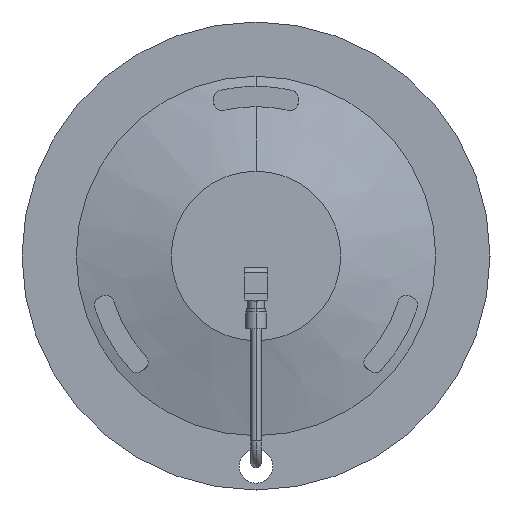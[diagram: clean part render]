
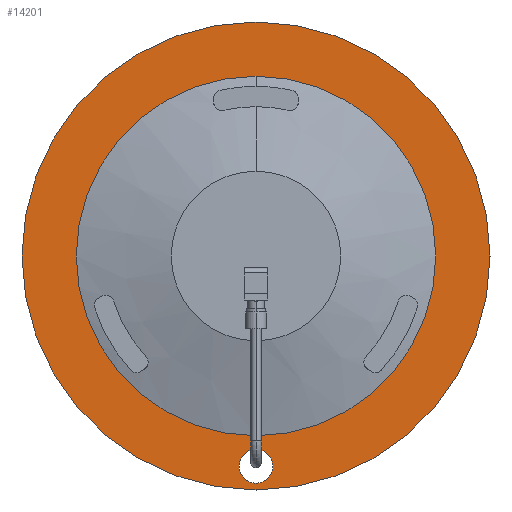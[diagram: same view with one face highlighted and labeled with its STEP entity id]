
A CAD part, front view. The second image highlights one B-rep face of the part: STEP entity #14201.
In plain terms, the highlighted planar face has unit normal (0, -1, 0).
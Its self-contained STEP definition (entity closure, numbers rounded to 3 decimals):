
#184 = CARTESIAN_POINT ( 'NONE',  ( 0., -172.8, 0. ) ) ;
#335 = ORIENTED_EDGE ( 'NONE', *, *, #9932, .F. ) ;
#340 = EDGE_CURVE ( 'NONE', #13466, #1689, #13415, .T. ) ;
#426 = ORIENTED_EDGE ( 'NONE', *, *, #4478, .F. ) ;
#559 = FACE_BOUND ( 'NONE', #10485, .T. ) ;
#699 = DIRECTION ( 'NONE',  ( 0., 0., -1. ) ) ;
#1544 = CIRCLE ( 'NONE', #6304, 138. ) ;
#1689 = VERTEX_POINT ( 'NONE', #12234 ) ;
#1805 = PLANE ( 'NONE',  #10524 ) ;
#1960 = FACE_BOUND ( 'NONE', #5738, .T. ) ;
#2301 = EDGE_CURVE ( 'NONE', #13664, #14621, #5824, .T. ) ;
#2599 = AXIS2_PLACEMENT_3D ( 'NONE', #13309, #5983, #10740 ) ;
#2846 = ORIENTED_EDGE ( 'NONE', *, *, #3998, .F. ) ;
#2874 = DIRECTION ( 'NONE',  ( 0., 1., 0. ) ) ;
#3247 = CIRCLE ( 'NONE', #4742, 10. ) ;
#3443 = CARTESIAN_POINT ( 'NONE',  ( 0., -172.8, -138. ) ) ;
#3896 = CIRCLE ( 'NONE', #11379, 105.981 ) ;
#3998 = EDGE_CURVE ( 'NONE', #1689, #13466, #3247, .T. ) ;
#4121 = CARTESIAN_POINT ( 'NONE',  ( 0., -172.8, -124. ) ) ;
#4478 = EDGE_CURVE ( 'NONE', #14621, #13664, #3896, .T. ) ;
#4742 = AXIS2_PLACEMENT_3D ( 'NONE', #4121, #5147, #8804 ) ;
#5147 = DIRECTION ( 'NONE',  ( 0., -1., 0. ) ) ;
#5252 = CARTESIAN_POINT ( 'NONE',  ( 0., -172.8, 105.981 ) ) ;
#5343 = CARTESIAN_POINT ( 'NONE',  ( -138., -172.8, 0. ) ) ;
#5738 = EDGE_LOOP ( 'NONE', ( #426, #13101 ) ) ;
#5824 = CIRCLE ( 'NONE', #10310, 105.981 ) ;
#5983 = DIRECTION ( 'NONE',  ( 0., 1., 0. ) ) ;
#6224 = DIRECTION ( 'NONE',  ( 0., -1., 0. ) ) ;
#6304 = AXIS2_PLACEMENT_3D ( 'NONE', #12559, #2874, #11317 ) ;
#6855 = VERTEX_POINT ( 'NONE', #13148 ) ;
#8804 = DIRECTION ( 'NONE',  ( 0., 0., -1. ) ) ;
#8831 = DIRECTION ( 'NONE',  ( 0., 0., -1. ) ) ;
#8836 = FACE_OUTER_BOUND ( 'NONE', #11745, .T. ) ;
#8918 = DIRECTION ( 'NONE',  ( 0., -1., 0. ) ) ;
#9683 = CARTESIAN_POINT ( 'NONE',  ( 0., -172.8, -134. ) ) ;
#9732 = DIRECTION ( 'NONE',  ( 0., 0., -1. ) ) ;
#9779 = ORIENTED_EDGE ( 'NONE', *, *, #15090, .F. ) ;
#9932 = EDGE_CURVE ( 'NONE', #13403, #6855, #10087, .T. ) ;
#10087 = CIRCLE ( 'NONE', #2599, 138. ) ;
#10229 = CARTESIAN_POINT ( 'NONE',  ( 0., -172.8, -105.981 ) ) ;
#10310 = AXIS2_PLACEMENT_3D ( 'NONE', #14861, #13601, #8831 ) ;
#10485 = EDGE_LOOP ( 'NONE', ( #2846, #14452 ) ) ;
#10524 = AXIS2_PLACEMENT_3D ( 'NONE', #5343, #8918, #13685 ) ;
#10740 = DIRECTION ( 'NONE',  ( 0., 0., 1. ) ) ;
#10920 = AXIS2_PLACEMENT_3D ( 'NONE', #15089, #12663, #699 ) ;
#11317 = DIRECTION ( 'NONE',  ( 0., 0., 1. ) ) ;
#11379 = AXIS2_PLACEMENT_3D ( 'NONE', #184, #6224, #9732 ) ;
#11745 = EDGE_LOOP ( 'NONE', ( #9779, #335 ) ) ;
#12234 = CARTESIAN_POINT ( 'NONE',  ( 0., -172.8, -114. ) ) ;
#12559 = CARTESIAN_POINT ( 'NONE',  ( 0., -172.8, 0. ) ) ;
#12663 = DIRECTION ( 'NONE',  ( 0., -1., 0. ) ) ;
#13101 = ORIENTED_EDGE ( 'NONE', *, *, #2301, .F. ) ;
#13148 = CARTESIAN_POINT ( 'NONE',  ( 0., -172.8, 138. ) ) ;
#13309 = CARTESIAN_POINT ( 'NONE',  ( 0., -172.8, 0. ) ) ;
#13403 = VERTEX_POINT ( 'NONE', #3443 ) ;
#13415 = CIRCLE ( 'NONE', #10920, 10. ) ;
#13466 = VERTEX_POINT ( 'NONE', #9683 ) ;
#13601 = DIRECTION ( 'NONE',  ( 0., -1., 0. ) ) ;
#13664 = VERTEX_POINT ( 'NONE', #10229 ) ;
#13685 = DIRECTION ( 'NONE',  ( 0., 0., -1. ) ) ;
#14201 = ADVANCED_FACE ( 'NONE', ( #1960, #559, #8836 ), #1805, .T. ) ;
#14452 = ORIENTED_EDGE ( 'NONE', *, *, #340, .F. ) ;
#14621 = VERTEX_POINT ( 'NONE', #5252 ) ;
#14861 = CARTESIAN_POINT ( 'NONE',  ( 0., -172.8, 0. ) ) ;
#15089 = CARTESIAN_POINT ( 'NONE',  ( 0., -172.8, -124. ) ) ;
#15090 = EDGE_CURVE ( 'NONE', #6855, #13403, #1544, .T. ) ;
